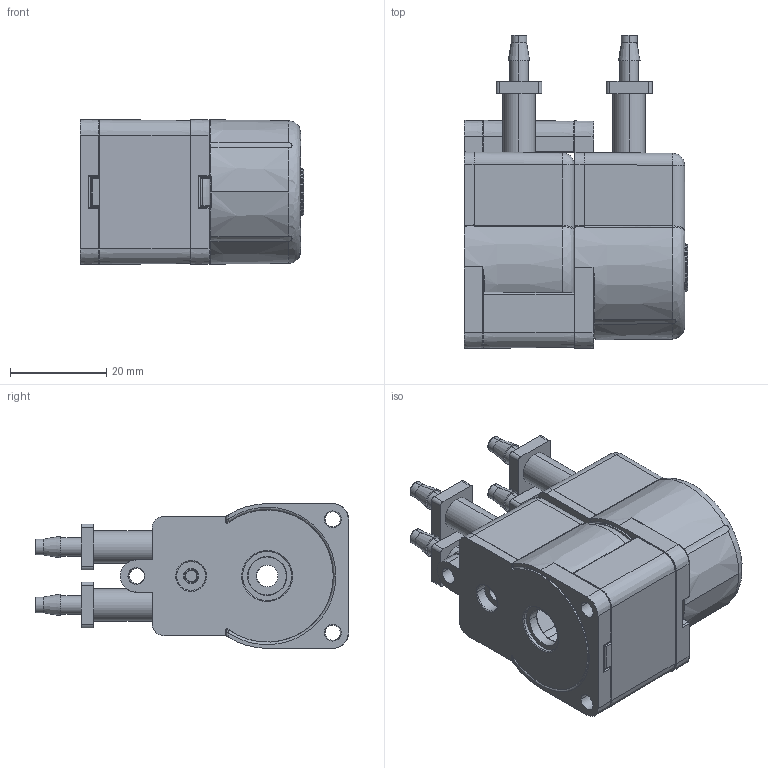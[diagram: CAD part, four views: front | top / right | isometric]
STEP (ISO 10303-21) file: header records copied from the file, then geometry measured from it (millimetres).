
FILE_DESCRIPTION (( 'STEP AP203' ), '1' );
FILE_NAME ('100 series stacked pump head.STEP', '2020-10-22T13:10:00', ( '' ), ( '' ), 'SwSTEP 2.0', 'SolidWorks 2017', '' );
FILE_SCHEMA (( 'CONFIG_CONTROL_DESIGN' ));
Length unit declared in the file: millimetre
Products named in the file (10): 100 series stacked pump head; 1.6mm tube; 52384-2 120 series 1.6 tube grip_1; 52384-1 120 DOUBLE PUMP SPACER TOP; 52384-1 120 COVER; 52384-2 120 series 0.8 tube grip_1; 52417-1 120 series assembly_1; 52384-1 120 DOUBLE PUMP SPACER BASE; micro 4; 52384-1 120 BASE
Assembly tree (17 placements, depth 3):
  100 series stacked pump head
    52417-1 120 series assembly_1
      52384-2 120 series 1.6 tube grip_1
      52384-2 120 series 0.8 tube grip_1
    1.6mm tube  x4
    micro 4  x4
    52384-1 120 DOUBLE PUMP SPACER TOP
    52384-1 120 DOUBLE PUMP SPACER BASE
    52384-1 120 COVER  x2
    52384-1 120 BASE  x2
Bounding box: 46.25 x 64.94 x 30 mm (x, y, z)
Volume: 27406.1 mm3; surface area: 27342 mm2
Topology: 16 solids, 16 shells, 1147 faces, 2861 edges, 1765 vertices
Faces by surface type: cylinder 388, bspline 345, plane 326, cone 88
Entity records: 25885 total; most frequent: CARTESIAN_POINT 11114, ORIENTED_EDGE 3114, DIRECTION 2476, EDGE_CURVE 1557, VERTEX_POINT 968, AXIS2_PLACEMENT_3D 897, LINE 682, VECTOR 682
